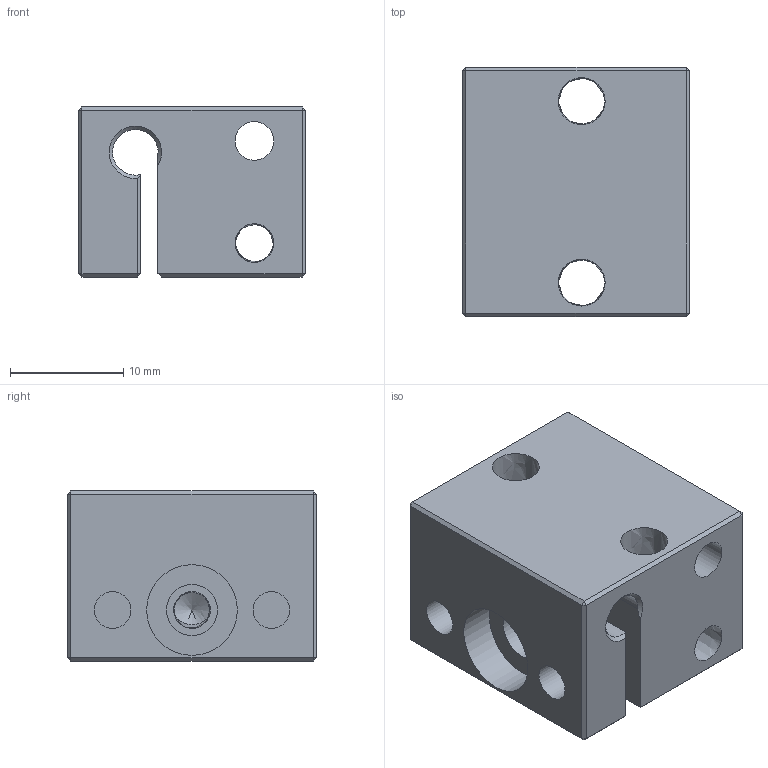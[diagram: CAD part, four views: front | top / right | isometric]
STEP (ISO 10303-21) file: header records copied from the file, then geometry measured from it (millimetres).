
FILE_DESCRIPTION((''),'2;1');
FILE_NAME('C:\Marketing\2008-04-02\Z0482269-02.stp','2008-04-02T13:41:21',('11000115'),(''),'Autodesk Inventor 2008','Autodesk Inventor 2008','');
FILE_SCHEMA(('AUTOMOTIVE_DESIGN { 1 0 10303 214 1 1 1 1 }'));
Length unit declared in the file: millimetre
Products named in the file (1): Z0482269-02
Bounding box: 20 x 22 x 15 mm (x, y, z)
Volume: 4621 mm3; surface area: 3812.1 mm2
Topology: 1 solids, 1 shells, 61 faces, 154 edges, 92 vertices
Faces by surface type: plane 37, bspline 22, cone 2
Entity records: 1993 total; most frequent: CARTESIAN_POINT 731, ORIENTED_EDGE 244, DIRECTION 232, EDGE_CURVE 122, EDGE_LOOP 93, AXIS2_PLACEMENT_3D 80, VERTEX_POINT 75, VECTOR 72
